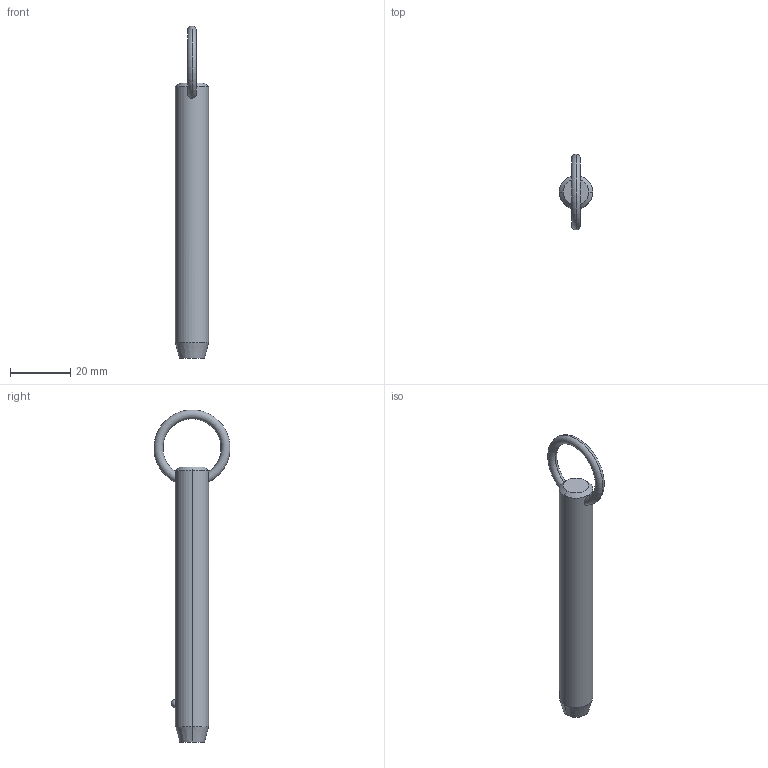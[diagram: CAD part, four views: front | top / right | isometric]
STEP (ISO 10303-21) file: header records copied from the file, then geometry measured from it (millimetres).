
FILE_DESCRIPTION (( 'STEP AP203' ), '1' );
FILE_NAME ('P1250.050-280.step', '2019-07-29T20:33:14', ( '' ), ( '' ), 'SwSTEP 2.0', 'SolidWorks 2017', '' );
FILE_SCHEMA (( 'CONFIG_CONTROL_DESIGN' ));
Length unit declared in the file: millimetre
Products named in the file (1): P1250.050-280
Bounding box: 11.1 x 25.32 x 110.65 mm (x, y, z)
Volume: 9156.4 mm3; surface area: 3850.4 mm2
Topology: 1 solids, 1 shells, 12 faces, 28 edges, 17 vertices
Faces by surface type: cone 4, torus 2, sphere 2, cylinder 2, plane 2
Entity records: 523 total; most frequent: CARTESIAN_POINT 190, DIRECTION 56, ORIENTED_EDGE 48, AXIS2_PLACEMENT_3D 25, EDGE_CURVE 24, VERTEX_POINT 15, EDGE_LOOP 15, ADVANCED_FACE 12
